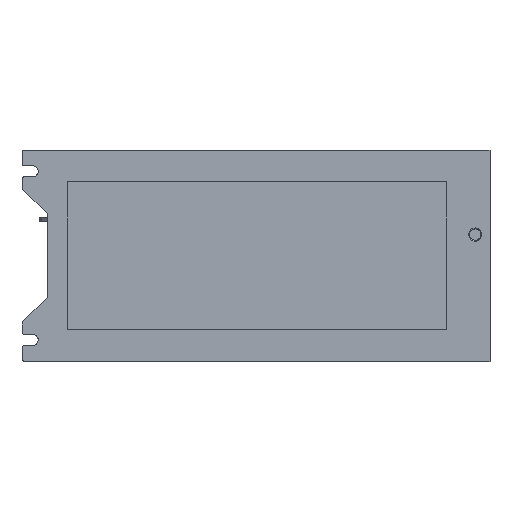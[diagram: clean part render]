
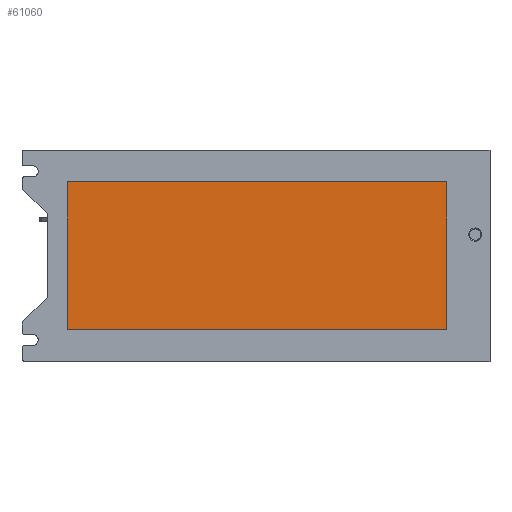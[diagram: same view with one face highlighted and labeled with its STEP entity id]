
A CAD part, top view. The second image highlights one B-rep face of the part: STEP entity #61060.
In plain terms, the highlighted planar face has unit normal (0, 0, 1).
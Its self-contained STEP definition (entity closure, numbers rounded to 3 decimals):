
#3004 = VERTEX_POINT ( 'NONE', #30726 ) ;
#10828 = DIRECTION ( 'NONE',  ( 0., 0., 1. ) ) ;
#11550 = ORIENTED_EDGE ( 'NONE', *, *, #29167, .T. ) ;
#12451 = CARTESIAN_POINT ( 'NONE',  ( -200.5, 85., 106.5 ) ) ;
#13115 = CARTESIAN_POINT ( 'NONE',  ( -20.5, 85., 106.5 ) ) ;
#15870 = ORIENTED_EDGE ( 'NONE', *, *, #80063, .T. ) ;
#17985 = AXIS2_PLACEMENT_3D ( 'NONE', #87342, #10828, #49026 ) ;
#25711 = VERTEX_POINT ( 'NONE', #43635 ) ;
#29167 = EDGE_CURVE ( 'NONE', #25711, #48050, #70747, .T. ) ;
#30564 = DIRECTION ( 'NONE',  ( 1., 0., 0. ) ) ;
#30726 = CARTESIAN_POINT ( 'NONE',  ( -200.5, 85., 106.5 ) ) ;
#31719 = VECTOR ( 'NONE', #93386, 1000. ) ;
#38765 = CARTESIAN_POINT ( 'NONE',  ( -200.5, 15., 106.5 ) ) ;
#42485 = DIRECTION ( 'NONE',  ( -1., 0., 0. ) ) ;
#43635 = CARTESIAN_POINT ( 'NONE',  ( -200.5, 15., 106.5 ) ) ;
#47036 = ORIENTED_EDGE ( 'NONE', *, *, #58702, .T. ) ;
#48050 = VERTEX_POINT ( 'NONE', #58987 ) ;
#49026 = DIRECTION ( 'NONE',  ( 1., 0., 0. ) ) ;
#50536 = LINE ( 'NONE', #84789, #56640 ) ;
#56640 = VECTOR ( 'NONE', #100746, 1000. ) ;
#58591 = VECTOR ( 'NONE', #30564, 1000. ) ;
#58702 = EDGE_CURVE ( 'NONE', #77062, #3004, #68176, .T. ) ;
#58987 = CARTESIAN_POINT ( 'NONE',  ( -20.5, 15., 106.5 ) ) ;
#61060 = ADVANCED_FACE ( 'NONE', ( #74533 ), #95475, .T. ) ;
#68176 = LINE ( 'NONE', #12451, #86402 ) ;
#70747 = LINE ( 'NONE', #38765, #58591 ) ;
#71730 = LINE ( 'NONE', #85573, #31719 ) ;
#74533 = FACE_OUTER_BOUND ( 'NONE', #85936, .T. ) ;
#77062 = VERTEX_POINT ( 'NONE', #13115 ) ;
#80063 = EDGE_CURVE ( 'NONE', #48050, #77062, #50536, .T. ) ;
#80763 = ORIENTED_EDGE ( 'NONE', *, *, #81657, .T. ) ;
#81657 = EDGE_CURVE ( 'NONE', #3004, #25711, #71730, .T. ) ;
#84789 = CARTESIAN_POINT ( 'NONE',  ( -20.5, 85., 106.5 ) ) ;
#85573 = CARTESIAN_POINT ( 'NONE',  ( -200.5, 85., 106.5 ) ) ;
#85936 = EDGE_LOOP ( 'NONE', ( #80763, #11550, #15870, #47036 ) ) ;
#86402 = VECTOR ( 'NONE', #42485, 1000. ) ;
#87342 = CARTESIAN_POINT ( 'NONE',  ( 0., 0., 106.5 ) ) ;
#93386 = DIRECTION ( 'NONE',  ( 0., -1., 0. ) ) ;
#95475 = PLANE ( 'NONE',  #17985 ) ;
#100746 = DIRECTION ( 'NONE',  ( 0., 1., 0. ) ) ;
